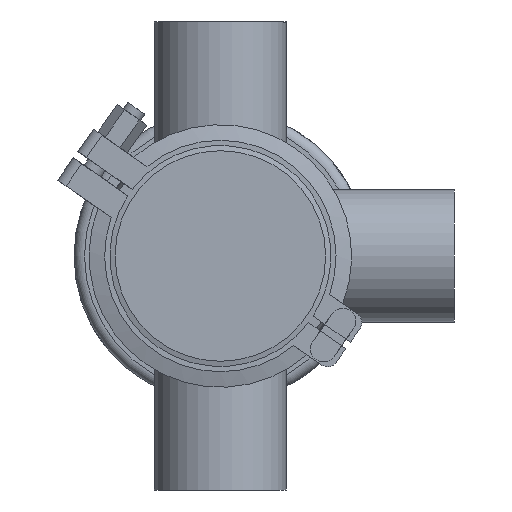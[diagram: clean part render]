
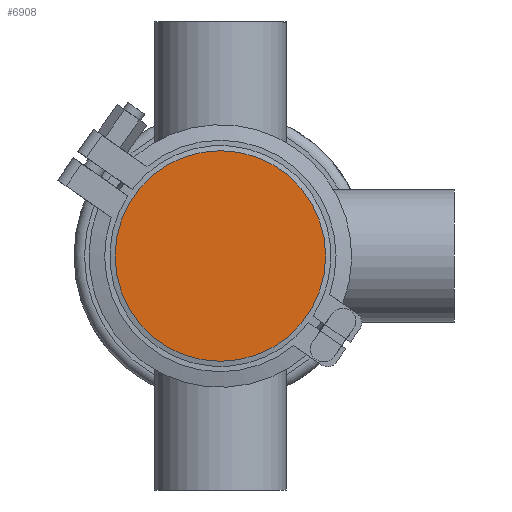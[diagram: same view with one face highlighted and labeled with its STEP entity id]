
A CAD part, front view. The second image highlights one B-rep face of the part: STEP entity #6908.
In plain terms, the highlighted planar face has unit normal (0, -1, 0).
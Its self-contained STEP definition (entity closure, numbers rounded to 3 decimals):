
#602 = FACE_OUTER_BOUND ( 'NONE', #10365, .T. ) ;
#706 = PLANE ( 'NONE',  #18274 ) ;
#959 = CIRCLE ( 'NONE', #21043, 40.5 ) ;
#1205 = DIRECTION ( 'NONE',  ( 0., 1., 0. ) ) ;
#3525 = ORIENTED_EDGE ( 'NONE', *, *, #17565, .F. ) ;
#6134 = VERTEX_POINT ( 'NONE', #14911 ) ;
#6908 = ADVANCED_FACE ( 'NONE', ( #602 ), #706, .T. ) ;
#7224 = CARTESIAN_POINT ( 'NONE',  ( -40.5, 0., 0. ) ) ;
#8526 = DIRECTION ( 'NONE',  ( 0., 0., -1. ) ) ;
#10365 = EDGE_LOOP ( 'NONE', ( #3525 ) ) ;
#12297 = DIRECTION ( 'NONE',  ( 0., -1., 0. ) ) ;
#14436 = DIRECTION ( 'NONE',  ( 0., 0., 1. ) ) ;
#14911 = CARTESIAN_POINT ( 'NONE',  ( 0., 0., 40.5 ) ) ;
#17565 = EDGE_CURVE ( 'NONE', #6134, #6134, #959, .T. ) ;
#18274 = AXIS2_PLACEMENT_3D ( 'NONE', #7224, #12297, #8526 ) ;
#21043 = AXIS2_PLACEMENT_3D ( 'NONE', #21049, #1205, #14436 ) ;
#21049 = CARTESIAN_POINT ( 'NONE',  ( 0., 0., 0. ) ) ;
